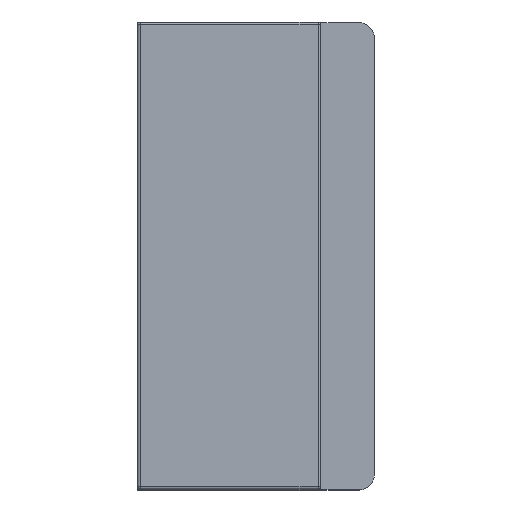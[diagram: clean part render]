
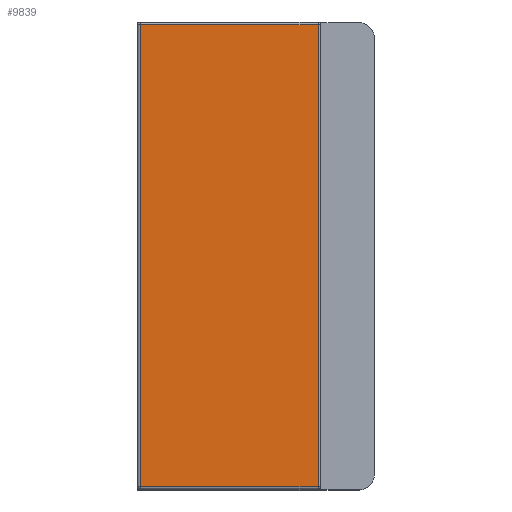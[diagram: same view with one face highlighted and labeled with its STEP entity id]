
A CAD part, top view. The second image highlights one B-rep face of the part: STEP entity #9839.
In plain terms, the highlighted planar face has unit normal (0, 0, 1) as drawn and (0, 1, 0) by its records, which use the part's own axes.
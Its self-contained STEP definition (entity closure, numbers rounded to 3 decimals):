
#9776 = VERTEX_POINT('',#9777);
#9777 = CARTESIAN_POINT('',(36.3,27.2,14.1));
#9821 = VERTEX_POINT('',#9822);
#9822 = CARTESIAN_POINT('',(36.3,27.2,0.2));
#9829 = EDGE_CURVE('',#9776,#9821,#9830,.T.);
#9830 = LINE('',#9831,#9832);
#9831 = CARTESIAN_POINT('',(36.3,27.2,14.3));
#9832 = VECTOR('',#9833,1.);
#9833 = DIRECTION('',(0.,0.,-1.));
#9839 = ADVANCED_FACE('',(#9840),#9865,.F.);
#9840 = FACE_BOUND('',#9841,.T.);
#9841 = EDGE_LOOP('',(#9842,#9850,#9851,#9859));
#9842 = ORIENTED_EDGE('',*,*,#9843,.T.);
#9843 = EDGE_CURVE('',#9844,#9776,#9846,.T.);
#9844 = VERTEX_POINT('',#9845);
#9845 = CARTESIAN_POINT('',(0.2,27.2,14.1));
#9846 = LINE('',#9847,#9848);
#9847 = CARTESIAN_POINT('',(0.,27.2,14.1));
#9848 = VECTOR('',#9849,1.);
#9849 = DIRECTION('',(1.,0.,0.));
#9850 = ORIENTED_EDGE('',*,*,#9829,.T.);
#9851 = ORIENTED_EDGE('',*,*,#9852,.T.);
#9852 = EDGE_CURVE('',#9821,#9853,#9855,.T.);
#9853 = VERTEX_POINT('',#9854);
#9854 = CARTESIAN_POINT('',(0.2,27.2,0.2));
#9855 = LINE('',#9856,#9857);
#9856 = CARTESIAN_POINT('',(0.,27.2,0.2));
#9857 = VECTOR('',#9858,1.);
#9858 = DIRECTION('',(-1.,0.,0.));
#9859 = ORIENTED_EDGE('',*,*,#9860,.T.);
#9860 = EDGE_CURVE('',#9853,#9844,#9861,.T.);
#9861 = LINE('',#9862,#9863);
#9862 = CARTESIAN_POINT('',(0.2,27.2,14.3));
#9863 = VECTOR('',#9864,1.);
#9864 = DIRECTION('',(0.,0.,1.));
#9865 = PLANE('',#9866);
#9866 = AXIS2_PLACEMENT_3D('',#9867,#9868,#9869);
#9867 = CARTESIAN_POINT('',(0.,27.2,14.3));
#9868 = DIRECTION('',(0.,-1.,0.));
#9869 = DIRECTION('',(0.,0.,-1.));
